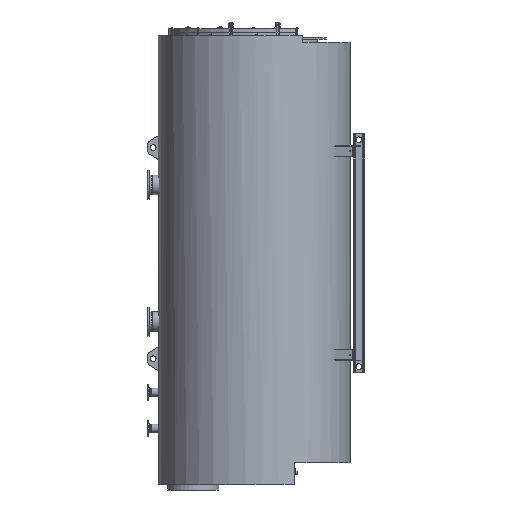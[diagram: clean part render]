
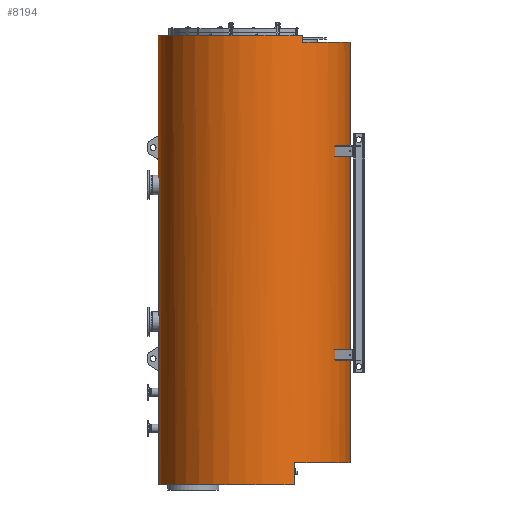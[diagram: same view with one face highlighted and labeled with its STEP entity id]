
A CAD part, left-side view. The second image highlights one B-rep face of the part: STEP entity #8194.
In plain terms, the highlighted cylindrical face has radius 1335 mm (diameter 2670 mm), a full revolution.
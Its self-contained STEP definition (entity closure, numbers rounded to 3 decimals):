
#5792=CYLINDRICAL_SURFACE('',#30870,1335.);
#6342=B_SPLINE_CURVE_WITH_KNOTS('',3,(#41546,#41547,#41548,#41549,#41550,
#41551,#41552,#41553,#41554,#41555,#41556,#41557,#41558,#41559,#41560,#41561,
#41562,#41563,#41564,#41565,#41566,#41567,#41568,#41569,#41570,#41571,#41572,
#41573,#41574,#41575,#41576,#41577,#41578,#41579,#41580,#41581,#41582,#41583,
#41584,#41585,#41586,#41587,#41588,#41589,#41590,#41591,#41592,#41593,#41594,
#41595,#41596,#41597,#41598,#41599,#41600,#41601,#41602,#41603,#41604,#41605,
#41606,#41607,#41608,#41609),.UNSPECIFIED.,.T.,.F.,(2,2,2,2,2,2,2,2,2,2,
2,2,2,2,2,2,2,2,2,2,2,2,2,2,2,2,2,2,2,2,2,2,2,2),(-0.062,0.,
0.031,0.063,0.094,0.125,0.156,0.188,0.219,0.25,0.281,0.313,
0.344,0.375,0.406,0.438,0.469,0.5,0.531,0.563,0.594,0.625,0.656,
0.688,0.719,0.75,0.781,0.813,0.844,0.875,0.906,0.938,1.,1.031),
 .UNSPECIFIED.);
#6834=FACE_BOUND('',#11547,.T.);
#6835=FACE_BOUND('',#11548,.T.);
#6836=FACE_BOUND('',#11549,.T.);
#8194=ADVANCED_FACE('',(#6834,#6835,#6836),#5792,.T.);
#11547=EDGE_LOOP('',(#17107,#17108,#17109,#17110));
#11548=EDGE_LOOP('',(#17111));
#11549=EDGE_LOOP('',(#17112,#17113,#17114,#17115));
#13891=LINE('',#41541,#15475);
#13892=LINE('',#41545,#15476);
#13893=LINE('',#41614,#15477);
#13894=LINE('',#41615,#15478);
#15475=VECTOR('',#33877,1.);
#15476=VECTOR('',#33880,1.);
#15477=VECTOR('',#33883,1.);
#15478=VECTOR('',#33884,1.);
#17107=ORIENTED_EDGE('',*,*,#26293,.T.);
#17108=ORIENTED_EDGE('',*,*,#26294,.T.);
#17109=ORIENTED_EDGE('',*,*,#26295,.F.);
#17110=ORIENTED_EDGE('',*,*,#26280,.F.);
#17111=ORIENTED_EDGE('',*,*,#26296,.F.);
#17112=ORIENTED_EDGE('',*,*,#26297,.T.);
#17113=ORIENTED_EDGE('',*,*,#26298,.F.);
#17114=ORIENTED_EDGE('',*,*,#26291,.T.);
#17115=ORIENTED_EDGE('',*,*,#26299,.T.);
#23808=VERTEX_POINT('',#41472);
#23809=VERTEX_POINT('',#41473);
#23814=VERTEX_POINT('',#41485);
#23819=VERTEX_POINT('',#41494);
#23821=VERTEX_POINT('',#41542);
#23822=VERTEX_POINT('',#41544);
#23823=VERTEX_POINT('',#41610);
#23824=VERTEX_POINT('',#41612);
#23825=VERTEX_POINT('',#41613);
#26280=EDGE_CURVE('',#23808,#23809,#29637,.T.);
#26291=EDGE_CURVE('',#23814,#23819,#29640,.T.);
#26293=EDGE_CURVE('',#23808,#23821,#13891,.T.);
#26294=EDGE_CURVE('',#23821,#23822,#29641,.T.);
#26295=EDGE_CURVE('',#23809,#23822,#13892,.T.);
#26296=EDGE_CURVE('',#23823,#23823,#6342,.T.);
#26297=EDGE_CURVE('',#23824,#23825,#29642,.T.);
#26298=EDGE_CURVE('',#23814,#23825,#13893,.T.);
#26299=EDGE_CURVE('',#23819,#23824,#13894,.T.);
#29637=CIRCLE('',#30862,1335.);
#29640=CIRCLE('',#30866,1335.);
#29641=CIRCLE('',#30868,1335.);
#29642=CIRCLE('',#30869,1335.);
#30862=AXIS2_PLACEMENT_3D('',#41471,#33857,#33858);
#30866=AXIS2_PLACEMENT_3D('',#41495,#33873,#33874);
#30868=AXIS2_PLACEMENT_3D('',#41543,#33878,#33879);
#30869=AXIS2_PLACEMENT_3D('',#41611,#33881,#33882);
#30870=AXIS2_PLACEMENT_3D('',#41616,#33885,#33886);
#33857=DIRECTION('',(0.,0.,1.));
#33858=DIRECTION('',(1.,0.,0.));
#33873=DIRECTION('',(0.,0.,1.));
#33874=DIRECTION('',(1.,0.,0.));
#33877=DIRECTION('',(0.,0.,-1.));
#33878=DIRECTION('',(0.,0.,-1.));
#33879=DIRECTION('',(1.,0.,0.));
#33880=DIRECTION('',(0.,0.,-1.));
#33881=DIRECTION('',(0.,0.,1.));
#33882=DIRECTION('',(1.,0.,0.));
#33883=DIRECTION('',(0.,0.,-1.));
#33884=DIRECTION('',(0.,0.,-1.));
#33885=DIRECTION('',(0.,0.,1.));
#33886=DIRECTION('',(1.,0.,0.));
#41471=CARTESIAN_POINT('',(0.,0.,200.));
#41472=CARTESIAN_POINT('',(1151.781,-675.,200.));
#41473=CARTESIAN_POINT('',(-1151.781,-675.,200.));
#41485=CARTESIAN_POINT('',(-1211.868,-560.,-5747.));
#41494=CARTESIAN_POINT('',(1211.868,-560.,-5747.));
#41495=CARTESIAN_POINT('',(0.,0.,-5747.));
#41541=CARTESIAN_POINT('',(1151.781,-675.,220.));
#41542=CARTESIAN_POINT('',(1151.781,-675.,100.));
#41543=CARTESIAN_POINT('',(0.,0.,100.));
#41544=CARTESIAN_POINT('',(-1151.781,-675.,100.));
#41545=CARTESIAN_POINT('',(-1151.781,-675.,220.));
#41546=CARTESIAN_POINT('',(-11.234,-1335.,-5002.));
#41547=CARTESIAN_POINT('',(5.617,-1335.,-5002.));
#41548=CARTESIAN_POINT('',(11.14,-1334.965,-5001.449));
#41549=CARTESIAN_POINT('',(22.005,-1334.83,-4999.289));
#41550=CARTESIAN_POINT('',(27.404,-1334.729,-4997.654));
#41551=CARTESIAN_POINT('',(37.697,-1334.478,-4993.387));
#41552=CARTESIAN_POINT('',(42.579,-1334.329,-4990.776));
#41553=CARTESIAN_POINT('',(51.817,-1334.002,-4984.608));
#41554=CARTESIAN_POINT('',(56.19,-1333.823,-4981.019));
#41555=CARTESIAN_POINT('',(64.029,-1333.469,-4973.178));
#41556=CARTESIAN_POINT('',(67.547,-1333.294,-4968.9));
#41557=CARTESIAN_POINT('',(73.761,-1332.964,-4959.609));
#41558=CARTESIAN_POINT('',(76.401,-1332.814,-4954.664));
#41559=CARTESIAN_POINT('',(80.64,-1332.564,-4944.436));
#41560=CARTESIAN_POINT('',(82.273,-1332.463,-4939.079));
#41561=CARTESIAN_POINT('',(84.457,-1332.326,-4928.107));
#41562=CARTESIAN_POINT('',(84.997,-1332.291,-4922.591));
#41563=CARTESIAN_POINT('',(85.003,-1332.291,-4911.501));
#41564=CARTESIAN_POINT('',(84.451,-1332.327,-4905.869));
#41565=CARTESIAN_POINT('',(82.282,-1332.462,-4894.966));
#41566=CARTESIAN_POINT('',(80.678,-1332.562,-4889.667));
#41567=CARTESIAN_POINT('',(76.422,-1332.813,-4879.374));
#41568=CARTESIAN_POINT('',(73.761,-1332.964,-4874.398));
#41569=CARTESIAN_POINT('',(67.61,-1333.29,-4865.187));
#41570=CARTESIAN_POINT('',(64.098,-1333.466,-4860.894));
#41571=CARTESIAN_POINT('',(56.168,-1333.824,-4852.956));
#41572=CARTESIAN_POINT('',(51.87,-1334.,-4849.434));
#41573=CARTESIAN_POINT('',(42.668,-1334.326,-4843.277));
#41574=CARTESIAN_POINT('',(37.701,-1334.477,-4840.615));
#41575=CARTESIAN_POINT('',(27.403,-1334.729,-4836.346));
#41576=CARTESIAN_POINT('',(22.105,-1334.828,-4834.737));
#41577=CARTESIAN_POINT('',(11.213,-1334.964,-4832.56));
#41578=CARTESIAN_POINT('',(5.578,-1335.,-4832.002));
#41579=CARTESIAN_POINT('',(-5.517,-1335.,-4831.998));
#41580=CARTESIAN_POINT('',(-11.032,-1334.966,-4832.534));
#41581=CARTESIAN_POINT('',(-21.993,-1334.83,-4834.705));
#41582=CARTESIAN_POINT('',(-27.365,-1334.729,-4836.335));
#41583=CARTESIAN_POINT('',(-37.597,-1334.48,-4840.566));
#41584=CARTESIAN_POINT('',(-42.534,-1334.33,-4843.195));
#41585=CARTESIAN_POINT('',(-51.841,-1334.001,-4849.407));
#41586=CARTESIAN_POINT('',(-56.124,-1333.826,-4852.923));
#41587=CARTESIAN_POINT('',(-63.968,-1333.472,-4860.752));
#41588=CARTESIAN_POINT('',(-67.56,-1333.293,-4865.12));
#41589=CARTESIAN_POINT('',(-73.74,-1332.965,-4874.359));
#41590=CARTESIAN_POINT('',(-76.354,-1332.816,-4879.238));
#41591=CARTESIAN_POINT('',(-80.627,-1332.565,-4889.517));
#41592=CARTESIAN_POINT('',(-82.269,-1332.463,-4894.921));
#41593=CARTESIAN_POINT('',(-84.439,-1332.327,-4905.787));
#41594=CARTESIAN_POINT('',(-84.994,-1332.292,-4911.306));
#41595=CARTESIAN_POINT('',(-85.006,-1332.291,-4922.524));
#41596=CARTESIAN_POINT('',(-84.458,-1332.326,-4928.067));
#41597=CARTESIAN_POINT('',(-82.308,-1332.461,-4938.932));
#41598=CARTESIAN_POINT('',(-80.682,-1332.561,-4944.324));
#41599=CARTESIAN_POINT('',(-76.42,-1332.813,-4954.631));
#41600=CARTESIAN_POINT('',(-73.812,-1332.961,-4959.515));
#41601=CARTESIAN_POINT('',(-67.656,-1333.288,-4968.753));
#41602=CARTESIAN_POINT('',(-64.07,-1333.467,-4973.131));
#41603=CARTESIAN_POINT('',(-56.233,-1333.821,-4980.981));
#41604=CARTESIAN_POINT('',(-51.959,-1333.997,-4984.501));
#41605=CARTESIAN_POINT('',(-42.684,-1334.326,-4990.717));
#41606=CARTESIAN_POINT('',(-37.731,-1334.477,-4993.368));
#41607=CARTESIAN_POINT('',(-22.395,-1334.851,-4999.741));
#41608=CARTESIAN_POINT('',(-11.234,-1335.,-5002.));
#41609=CARTESIAN_POINT('',(5.617,-1335.,-5002.));
#41610=CARTESIAN_POINT('',(0.,-1335.,-5002.));
#41611=CARTESIAN_POINT('',(0.,0.,-6052.));
#41612=CARTESIAN_POINT('',(1211.868,-560.,-6052.));
#41613=CARTESIAN_POINT('',(-1211.868,-560.,-6052.));
#41614=CARTESIAN_POINT('',(-1211.868,-560.,-5747.));
#41615=CARTESIAN_POINT('',(1211.868,-560.,-5747.));
#41616=CARTESIAN_POINT('',(0.,0.,-6052.));
